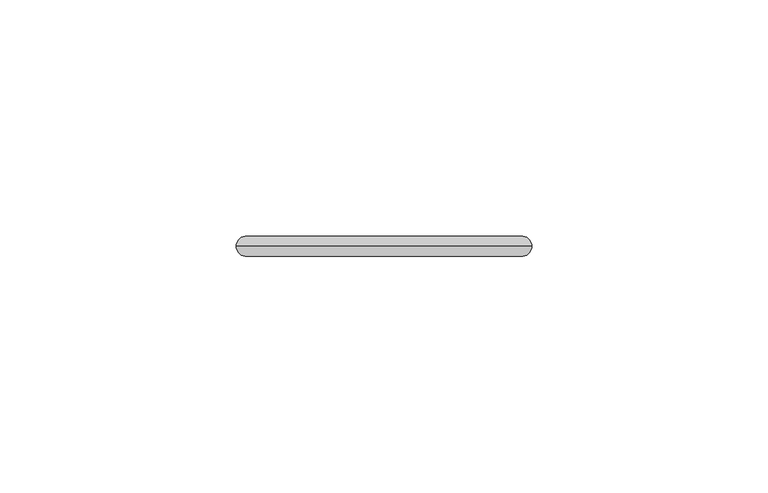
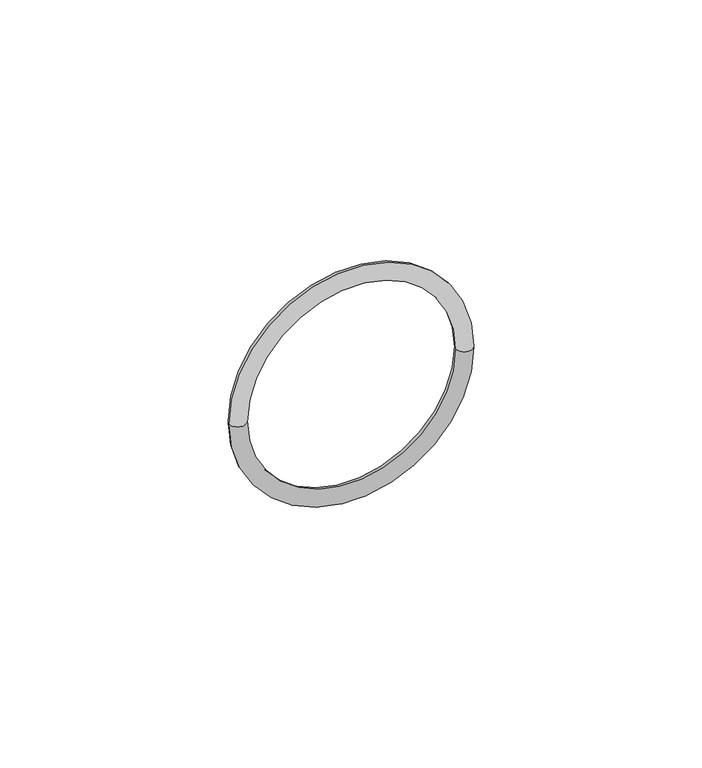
"""IFC4 building model written with IfcOpenShell, lengths in millimetres: pipe fitting geometry, VALTEC_VTi.990.I_Уплотнительное кольцо из FPM : VTi.990.I."""

from ifc_helpers import new_model, si_unit, point, frame, origin, place, context, project, spatial, circle_curve, ellipse_curve, trimmed, source, transform, mapped, element, save
from ifc_brep_helpers import revolved_surface, advanced_brep


def pipe_fitting_f2409af1(model_context):
    return source(origin(), model_context, "Body", "AdvancedBrep", [
        advanced_brep(
        [(27.0, 0.0, 0.0), (-27.0, 0.0, 0.0), (-31.3, 0.0, 0.0), (31.3, 0.0, 0.0)],
        [
            (0, 1, circle_curve(frame((0.0, 0.0, 0.0), z_axis=(0.0, 1.0, 0.0), x_axis=(-1.0, 0.0, 0.0)), 27.0)),
            (1, 2, circle_curve(frame((-29.15, 0.0, 0.0), z_axis=(0.0, 0.0, -1.0), x_axis=(1.0, 0.0, 0.0)), 2.15)),
            (2, 3, circle_curve(frame((0.0, 0.0, 0.0), z_axis=(0.0, -1.0, 0.0), x_axis=(-1.0, 0.0, 0.0)), 31.3)),
            (3, 0, circle_curve(frame((29.15, 0.0, 0.0), z_axis=(0.0, 0.0, -1.0), x_axis=(-1.0, 0.0, 0.0)), 2.15)),
            (1, 0, circle_curve(frame((0.0, 0.0, 0.0), z_axis=(0.0, 1.0, 0.0), x_axis=(-1.0, 0.0, 0.0)), 27.0)),
            (3, 2, circle_curve(frame((0.0, 0.0, 0.0), z_axis=(0.0, -1.0, 0.0), x_axis=(-1.0, 0.0, 0.0)), 31.3)),
            (2, 1, circle_curve(frame((-29.15, 0.0, 0.0), z_axis=(0.0, 0.0, -1.0), x_axis=(1.0, 0.0, 0.0)), 2.15)),
            (0, 3, circle_curve(frame((29.15, 0.0, 0.0), z_axis=(0.0, 0.0, -1.0), x_axis=(-1.0, 0.0, 0.0)), 2.15)),
        ],
        [
            revolved_surface(trimmed(ellipse_curve(frame((-29.15, 0.0, 0.0), z_axis=(0.0, 0.0, 1.0), x_axis=(1.0, 0.0, 0.0)), 2.15, 2.15), [point((-31.3, 0.0, 0.0))], [point((-27.0, 0.0, 0.0))], True, "CARTESIAN"), (0.0, 1.0336847, 0.0), (0.0, -1.0, 0.0)),
            revolved_surface(trimmed(ellipse_curve(frame((-29.15, 0.0, 0.0), z_axis=(0.0, 0.0, 1.0), x_axis=(1.0, 0.0, 0.0)), 2.15, 2.15), [point((-27.0, 0.0, 0.0))], [point((-31.3, 0.0, 0.0))], True, "CARTESIAN"), (0.0, 1.0336847, 0.0), (0.0, -1.0, 0.0)),
        ],
        [
            (0, [[1, 2, 3, 4]]),
            (0, [[5, -4, 6, -2]]),
            (1, [[-3, 7, -1, 8]]),
            (1, [[-6, -8, -5, -7]]),
        ],
    ),
    ])


if __name__ == "__main__":
    model = new_model("IFC4")
    model_context = context("Model", 3, world=origin())
    ifc_project = project(units=[si_unit("LENGTHUNIT", "METRE", prefix="MILLI")], contexts=[model_context])
    site = spatial("IfcSite", under=ifc_project)
    building = spatial("IfcBuilding", under=site)
    placement = place(None, origin())
    pipe_fitting_shape = pipe_fitting_f2409af1(model_context)
    element("IfcPipeFitting", 1, ObjectType="VALTEC_VTi.990.I_Уплотнительное кольцо из FPM : VTi.990.I", at=placement, inside=building, context=model_context, shape_type="MappedRepresentation", body=[
        mapped(pipe_fitting_shape, transform((0.0, 0.0, 0.0), x_axis=(1.0, 0.0, 0.0), y_axis=(0.0, 1.0, 0.0), z_axis=(0.0, 0.0, 1.0))),
    ])
    save(model, "model.ifc")
